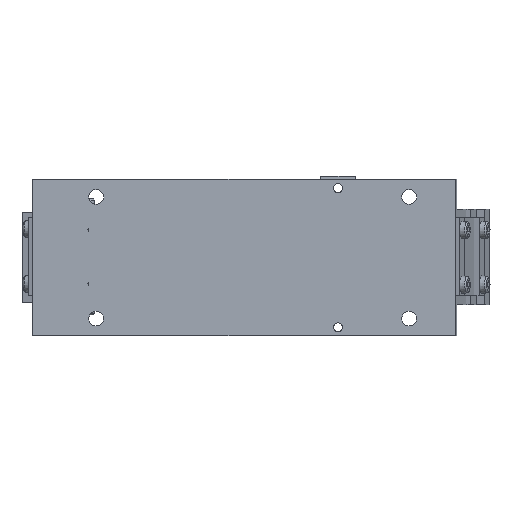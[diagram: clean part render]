
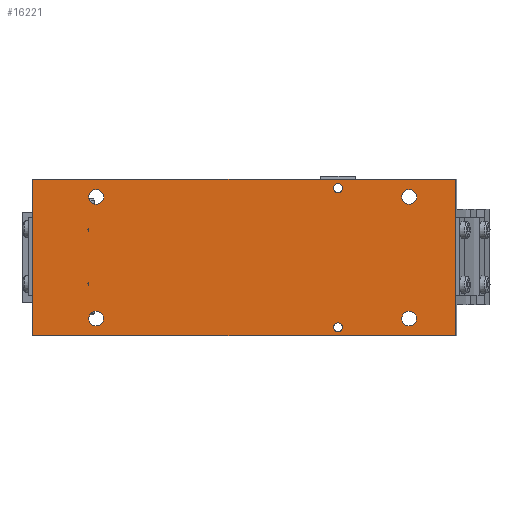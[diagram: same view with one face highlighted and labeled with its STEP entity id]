
A CAD part, front view. The second image highlights one B-rep face of the part: STEP entity #16221.
In plain terms, the highlighted planar face has unit normal (0, -1, 0).
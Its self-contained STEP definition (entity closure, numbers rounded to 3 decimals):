
#56 = LINE ( 'NONE', #10548, #4608 ) ;
#80 = EDGE_CURVE ( 'NONE', #2994, #9557, #4295, .T. ) ;
#124 = PLANE ( 'NONE',  #16991 ) ;
#157 = ORIENTED_EDGE ( 'NONE', *, *, #7434, .F. ) ;
#209 = FACE_BOUND ( 'NONE', #989, .T. ) ;
#358 = EDGE_CURVE ( 'NONE', #9557, #1705, #3795, .T. ) ;
#609 = AXIS2_PLACEMENT_3D ( 'NONE', #17788, #11979, #10247 ) ;
#663 = EDGE_CURVE ( 'NONE', #14476, #17167, #5538, .T. ) ;
#876 = EDGE_LOOP ( 'NONE', ( #13353, #5418, #13972, #5784 ) ) ;
#989 = EDGE_LOOP ( 'NONE', ( #10048, #5490 ) ) ;
#1002 = EDGE_LOOP ( 'NONE', ( #8898, #5187 ) ) ;
#1200 = EDGE_CURVE ( 'NONE', #5630, #3189, #1872, .T. ) ;
#1216 = AXIS2_PLACEMENT_3D ( 'NONE', #11083, #17014, #16813 ) ;
#1452 = DIRECTION ( 'NONE',  ( 0., 0., -1. ) ) ;
#1522 = EDGE_LOOP ( 'NONE', ( #12463, #157 ) ) ;
#1560 = CIRCLE ( 'NONE', #12989, 4.25 ) ;
#1705 = VERTEX_POINT ( 'NONE', #6607 ) ;
#1715 = VERTEX_POINT ( 'NONE', #14849 ) ;
#1728 = CARTESIAN_POINT ( 'NONE',  ( -6097.74, -3177.007, 82. ) ) ;
#1750 = FACE_BOUND ( 'NONE', #4123, .T. ) ;
#1821 = VERTEX_POINT ( 'NONE', #1968 ) ;
#1872 = CIRCLE ( 'NONE', #15449, 4.25 ) ;
#1968 = CARTESIAN_POINT ( 'NONE',  ( -6277.74, -3177.007, 77.75 ) ) ;
#2551 = EDGE_CURVE ( 'NONE', #16994, #12075, #11356, .T. ) ;
#2839 = VERTEX_POINT ( 'NONE', #14098 ) ;
#2994 = VERTEX_POINT ( 'NONE', #17216 ) ;
#3145 = EDGE_CURVE ( 'NONE', #1821, #10345, #6774, .T. ) ;
#3189 = VERTEX_POINT ( 'NONE', #10612 ) ;
#3475 = DIRECTION ( 'NONE',  ( 0., 1., 0. ) ) ;
#3583 = EDGE_CURVE ( 'NONE', #3189, #5630, #1560, .T. ) ;
#3691 = CARTESIAN_POINT ( 'NONE',  ( -6071.24, -3177.007, -3. ) ) ;
#3795 = LINE ( 'NONE', #3691, #12046 ) ;
#4123 = EDGE_LOOP ( 'NONE', ( #6035, #14060 ) ) ;
#4221 = LINE ( 'NONE', #17755, #17784 ) ;
#4295 = LINE ( 'NONE', #10180, #16330 ) ;
#4311 = CIRCLE ( 'NONE', #15125, 4.25 ) ;
#4358 = CARTESIAN_POINT ( 'NONE',  ( -6097.74, -3177.007, 12. ) ) ;
#4545 = FACE_BOUND ( 'NONE', #1002, .T. ) ;
#4608 = VECTOR ( 'NONE', #16475, 1000. ) ;
#4762 = DIRECTION ( 'NONE',  ( 0., 0., -1. ) ) ;
#4784 = AXIS2_PLACEMENT_3D ( 'NONE', #16821, #12465, #18355 ) ;
#4806 = CARTESIAN_POINT ( 'NONE',  ( -6138.711, -3177.007, 87. ) ) ;
#5087 = CIRCLE ( 'NONE', #4784, 4.25 ) ;
#5187 = ORIENTED_EDGE ( 'NONE', *, *, #5957, .T. ) ;
#5373 = CARTESIAN_POINT ( 'NONE',  ( -6097.74, -3177.007, 82. ) ) ;
#5418 = ORIENTED_EDGE ( 'NONE', *, *, #5428, .F. ) ;
#5428 = EDGE_CURVE ( 'NONE', #1715, #1705, #56, .T. ) ;
#5439 = CARTESIAN_POINT ( 'NONE',  ( -6097.74, -3177.007, 7.75 ) ) ;
#5454 = DIRECTION ( 'NONE',  ( 0., 0., -1. ) ) ;
#5490 = ORIENTED_EDGE ( 'NONE', *, *, #9774, .T. ) ;
#5538 = CIRCLE ( 'NONE', #12016, 4.25 ) ;
#5585 = AXIS2_PLACEMENT_3D ( 'NONE', #5666, #7106, #5454 ) ;
#5630 = VERTEX_POINT ( 'NONE', #5714 ) ;
#5666 = CARTESIAN_POINT ( 'NONE',  ( -6097.74, -3177.007, 12. ) ) ;
#5714 = CARTESIAN_POINT ( 'NONE',  ( -6097.74, -3177.007, 77.75 ) ) ;
#5784 = ORIENTED_EDGE ( 'NONE', *, *, #80, .T. ) ;
#5791 = VERTEX_POINT ( 'NONE', #14996 ) ;
#5919 = FACE_BOUND ( 'NONE', #1522, .T. ) ;
#5957 = EDGE_CURVE ( 'NONE', #5791, #2839, #15710, .T. ) ;
#6035 = ORIENTED_EDGE ( 'NONE', *, *, #663, .F. ) ;
#6093 = FACE_BOUND ( 'NONE', #10195, .T. ) ;
#6366 = CARTESIAN_POINT ( 'NONE',  ( -6138.711, -3177.007, 87. ) ) ;
#6607 = CARTESIAN_POINT ( 'NONE',  ( -6071.24, -3177.007, 92. ) ) ;
#6683 = DIRECTION ( 'NONE',  ( 0., 0., 1. ) ) ;
#6774 = CIRCLE ( 'NONE', #609, 4.25 ) ;
#7106 = DIRECTION ( 'NONE',  ( 0., -1., 0. ) ) ;
#7162 = EDGE_CURVE ( 'NONE', #18126, #17142, #8662, .T. ) ;
#7434 = EDGE_CURVE ( 'NONE', #12075, #16994, #13317, .T. ) ;
#7614 = CARTESIAN_POINT ( 'NONE',  ( -6097.74, -3177.007, 16.25 ) ) ;
#7653 = CARTESIAN_POINT ( 'NONE',  ( -6138.711, -3177.007, 84.4 ) ) ;
#8088 = EDGE_CURVE ( 'NONE', #10345, #1821, #4311, .T. ) ;
#8313 = EDGE_LOOP ( 'NONE', ( #16185, #17569 ) ) ;
#8602 = AXIS2_PLACEMENT_3D ( 'NONE', #4358, #8879, #15864 ) ;
#8662 = CIRCLE ( 'NONE', #16397, 2.6 ) ;
#8837 = DIRECTION ( 'NONE',  ( 1., 0., 0. ) ) ;
#8874 = DIRECTION ( 'NONE',  ( 0., -1., 0. ) ) ;
#8879 = DIRECTION ( 'NONE',  ( 0., -1., 0. ) ) ;
#8898 = ORIENTED_EDGE ( 'NONE', *, *, #13636, .T. ) ;
#9298 = CARTESIAN_POINT ( 'NONE',  ( -6277.74, -3177.007, 12. ) ) ;
#9356 = DIRECTION ( 'NONE',  ( 0., 0., -1. ) ) ;
#9557 = VERTEX_POINT ( 'NONE', #12839 ) ;
#9774 = EDGE_CURVE ( 'NONE', #17142, #18126, #17740, .T. ) ;
#10048 = ORIENTED_EDGE ( 'NONE', *, *, #7162, .T. ) ;
#10180 = CARTESIAN_POINT ( 'NONE',  ( -6314.24, -3177.007, 2. ) ) ;
#10195 = EDGE_LOOP ( 'NONE', ( #14714, #17019 ) ) ;
#10247 = DIRECTION ( 'NONE',  ( 0., 0., -1. ) ) ;
#10248 = FACE_OUTER_BOUND ( 'NONE', #876, .T. ) ;
#10296 = DIRECTION ( 'NONE',  ( 0., 0., 1. ) ) ;
#10345 = VERTEX_POINT ( 'NONE', #18573 ) ;
#10525 = CARTESIAN_POINT ( 'NONE',  ( -6314.24, -3177.007, -3. ) ) ;
#10548 = CARTESIAN_POINT ( 'NONE',  ( -6314.24, -3177.007, 92. ) ) ;
#10612 = CARTESIAN_POINT ( 'NONE',  ( -6097.74, -3177.007, 86.25 ) ) ;
#10624 = EDGE_CURVE ( 'NONE', #17167, #14476, #5087, .T. ) ;
#11083 = CARTESIAN_POINT ( 'NONE',  ( -6138.711, -3177.007, 7. ) ) ;
#11229 = EDGE_CURVE ( 'NONE', #2994, #1715, #4221, .T. ) ;
#11356 = CIRCLE ( 'NONE', #8602, 4.25 ) ;
#11391 = CARTESIAN_POINT ( 'NONE',  ( -6138.711, -3177.007, 89.6 ) ) ;
#11617 = DIRECTION ( 'NONE',  ( 0., 1., 0. ) ) ;
#11979 = DIRECTION ( 'NONE',  ( 0., -1., 0. ) ) ;
#12016 = AXIS2_PLACEMENT_3D ( 'NONE', #9298, #15301, #4762 ) ;
#12046 = VECTOR ( 'NONE', #6683, 1000. ) ;
#12075 = VERTEX_POINT ( 'NONE', #7614 ) ;
#12155 = CARTESIAN_POINT ( 'NONE',  ( -6277.74, -3177.007, 7.75 ) ) ;
#12389 = DIRECTION ( 'NONE',  ( 0., -1., 0. ) ) ;
#12463 = ORIENTED_EDGE ( 'NONE', *, *, #2551, .F. ) ;
#12465 = DIRECTION ( 'NONE',  ( 0., -1., 0. ) ) ;
#12505 = DIRECTION ( 'NONE',  ( 0., 1., 0. ) ) ;
#12713 = DIRECTION ( 'NONE',  ( 0., 0., -1. ) ) ;
#12839 = CARTESIAN_POINT ( 'NONE',  ( -6071.24, -3177.007, 2. ) ) ;
#12989 = AXIS2_PLACEMENT_3D ( 'NONE', #1728, #8874, #1452 ) ;
#13317 = CIRCLE ( 'NONE', #5585, 4.25 ) ;
#13353 = ORIENTED_EDGE ( 'NONE', *, *, #358, .T. ) ;
#13636 = EDGE_CURVE ( 'NONE', #2839, #5791, #17506, .T. ) ;
#13972 = ORIENTED_EDGE ( 'NONE', *, *, #11229, .F. ) ;
#14060 = ORIENTED_EDGE ( 'NONE', *, *, #10624, .F. ) ;
#14098 = CARTESIAN_POINT ( 'NONE',  ( -6138.711, -3177.007, 9.6 ) ) ;
#14373 = DIRECTION ( 'NONE',  ( 0., 0., -1. ) ) ;
#14476 = VERTEX_POINT ( 'NONE', #12155 ) ;
#14714 = ORIENTED_EDGE ( 'NONE', *, *, #3145, .F. ) ;
#14834 = DIRECTION ( 'NONE',  ( 0., 0., -1. ) ) ;
#14849 = CARTESIAN_POINT ( 'NONE',  ( -6314.24, -3177.007, 92. ) ) ;
#14996 = CARTESIAN_POINT ( 'NONE',  ( -6138.711, -3177.007, 4.4 ) ) ;
#15000 = FACE_BOUND ( 'NONE', #8313, .T. ) ;
#15125 = AXIS2_PLACEMENT_3D ( 'NONE', #15209, #12389, #16747 ) ;
#15209 = CARTESIAN_POINT ( 'NONE',  ( -6277.74, -3177.007, 82. ) ) ;
#15301 = DIRECTION ( 'NONE',  ( 0., -1., 0. ) ) ;
#15449 = AXIS2_PLACEMENT_3D ( 'NONE', #5373, #15927, #14373 ) ;
#15710 = CIRCLE ( 'NONE', #1216, 2.6 ) ;
#15864 = DIRECTION ( 'NONE',  ( 0., 0., -1. ) ) ;
#15927 = DIRECTION ( 'NONE',  ( 0., -1., 0. ) ) ;
#16185 = ORIENTED_EDGE ( 'NONE', *, *, #1200, .F. ) ;
#16192 = CARTESIAN_POINT ( 'NONE',  ( -6138.711, -3177.007, 7. ) ) ;
#16221 = ADVANCED_FACE ( 'NONE', ( #209, #4545, #1750, #15000, #5919, #6093, #10248 ), #124, .T. ) ;
#16330 = VECTOR ( 'NONE', #8837, 1000. ) ;
#16397 = AXIS2_PLACEMENT_3D ( 'NONE', #6366, #3475, #9356 ) ;
#16475 = DIRECTION ( 'NONE',  ( 1., 0., 0. ) ) ;
#16747 = DIRECTION ( 'NONE',  ( 0., 0., -1. ) ) ;
#16809 = AXIS2_PLACEMENT_3D ( 'NONE', #4806, #12505, #12713 ) ;
#16813 = DIRECTION ( 'NONE',  ( 0., 0., -1. ) ) ;
#16821 = CARTESIAN_POINT ( 'NONE',  ( -6277.74, -3177.007, 12. ) ) ;
#16991 = AXIS2_PLACEMENT_3D ( 'NONE', #10525, #19049, #17986 ) ;
#16994 = VERTEX_POINT ( 'NONE', #5439 ) ;
#17014 = DIRECTION ( 'NONE',  ( 0., 1., 0. ) ) ;
#17019 = ORIENTED_EDGE ( 'NONE', *, *, #8088, .F. ) ;
#17142 = VERTEX_POINT ( 'NONE', #7653 ) ;
#17167 = VERTEX_POINT ( 'NONE', #18462 ) ;
#17216 = CARTESIAN_POINT ( 'NONE',  ( -6314.24, -3177.007, 2. ) ) ;
#17506 = CIRCLE ( 'NONE', #18724, 2.6 ) ;
#17569 = ORIENTED_EDGE ( 'NONE', *, *, #3583, .F. ) ;
#17740 = CIRCLE ( 'NONE', #16809, 2.6 ) ;
#17755 = CARTESIAN_POINT ( 'NONE',  ( -6314.24, -3177.007, -3. ) ) ;
#17784 = VECTOR ( 'NONE', #10296, 1000. ) ;
#17788 = CARTESIAN_POINT ( 'NONE',  ( -6277.74, -3177.007, 82. ) ) ;
#17986 = DIRECTION ( 'NONE',  ( 0., 0., -1. ) ) ;
#18126 = VERTEX_POINT ( 'NONE', #11391 ) ;
#18355 = DIRECTION ( 'NONE',  ( 0., 0., -1. ) ) ;
#18462 = CARTESIAN_POINT ( 'NONE',  ( -6277.74, -3177.007, 16.25 ) ) ;
#18573 = CARTESIAN_POINT ( 'NONE',  ( -6277.74, -3177.007, 86.25 ) ) ;
#18724 = AXIS2_PLACEMENT_3D ( 'NONE', #16192, #11617, #14834 ) ;
#19049 = DIRECTION ( 'NONE',  ( 0., -1., 0. ) ) ;
